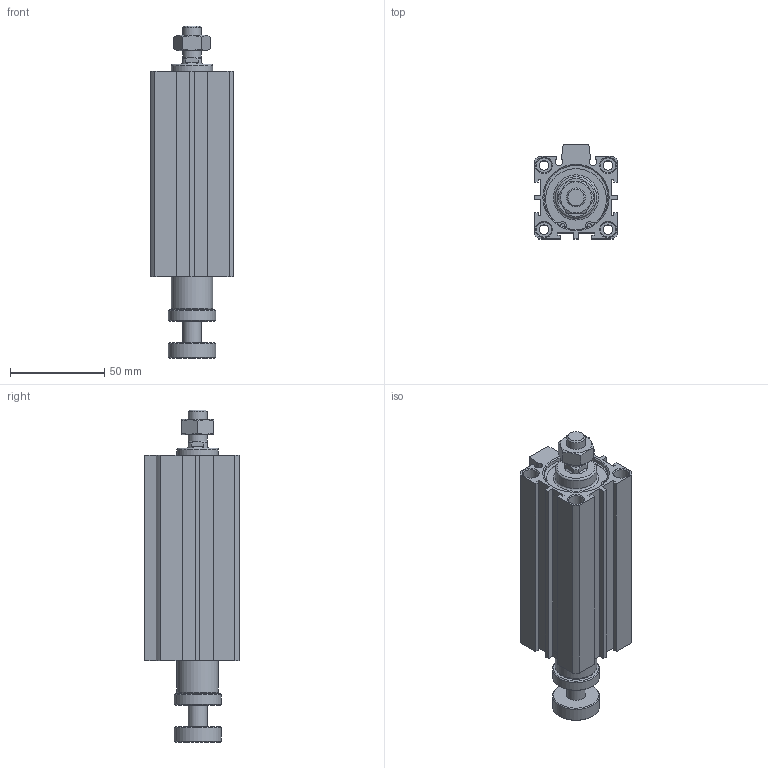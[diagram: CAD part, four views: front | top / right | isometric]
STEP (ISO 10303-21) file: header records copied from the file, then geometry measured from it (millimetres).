
FILE_DESCRIPTION((''),'2;1');
FILE_NAME('I:\3D電子目錄\氣缸\JDAR\JDAR-BS\JDAR32-BS\JDAR32x75-BS.stp','2007-05-05T11:56:55',('662F206'),(''),'Autodesk Inventor 11','Autodesk Inventor 11','');
FILE_SCHEMA(('AUTOMOTIVE_DESIGN { 1 0 10303 214 1 1 1 1 }'));
Length unit declared in the file: millimetre
Products named in the file (3): JDAR32-BS; R 形環 35
Assembly tree (3 placements, depth 2):
  JDAR32-BS
    JDAR32-BS
    R 形環 35  x2
Bounding box: 44 x 50 x 176.1 mm (x, y, z)
Volume: 203080.6 mm3; surface area: 47971.3 mm2
Topology: 3 solids, 3 shells, 180 faces, 421 edges, 273 vertices
Faces by surface type: plane 98, cylinder 53, cone 25, bspline 2, torus 2
Full cylindrical faces by diameter (mm): 1.9 x4, 2.2 x2, 5.1 x4, 8 x8, 10 x3, 22 x2, 25 x2, 34 x4, 36 x2
Entity records: 4639 total; most frequent: CARTESIAN_POINT 882, DIRECTION 784, ORIENTED_EDGE 664, EDGE_CURVE 332, AXIS2_PLACEMENT_3D 300, EDGE_LOOP 260, VERTEX_POINT 248, VECTOR 184
